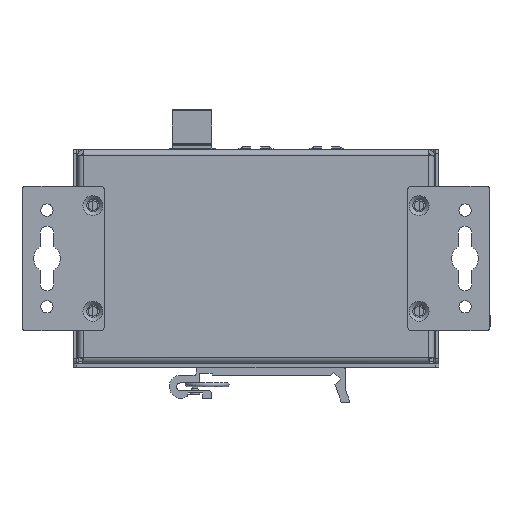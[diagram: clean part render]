
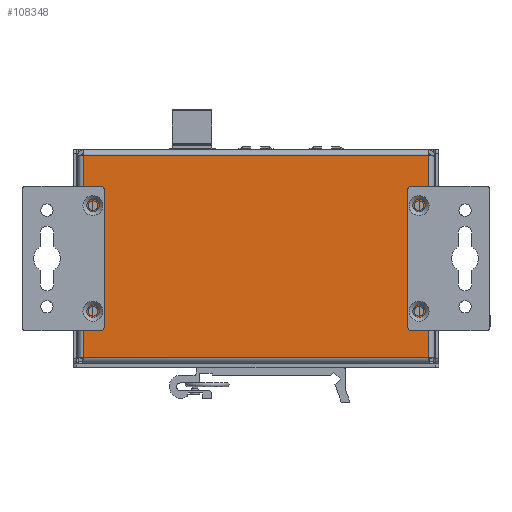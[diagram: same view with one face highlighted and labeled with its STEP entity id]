
A CAD part, front view. The second image highlights one B-rep face of the part: STEP entity #108348.
In plain terms, the highlighted planar face has unit normal (0, -1, 0).
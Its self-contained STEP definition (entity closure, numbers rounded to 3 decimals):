
#1522=FACE_BOUND('',#16320,.T.);
#1523=FACE_BOUND('',#16321,.T.);
#1524=FACE_BOUND('',#16322,.T.);
#1525=FACE_BOUND('',#16323,.T.);
#4067=PLANE('',#115951);
#10425=FACE_OUTER_BOUND('',#16319,.T.);
#16319=EDGE_LOOP('',(#90139,#90140,#90141,#90142));
#16320=EDGE_LOOP('',(#90143));
#16321=EDGE_LOOP('',(#90144));
#16322=EDGE_LOOP('',(#90145));
#16323=EDGE_LOOP('',(#90146));
#26345=LINE('',#170022,#38971);
#26377=LINE('',#170531,#39003);
#26408=LINE('',#171039,#39034);
#26494=LINE('',#171419,#39120);
#38971=VECTOR('',#136351,1000.);
#39003=VECTOR('',#136407,1000.);
#39034=VECTOR('',#136462,1000.);
#39120=VECTOR('',#136680,1000.);
#45803=CIRCLE('',#115952,1.25);
#45804=CIRCLE('',#115953,1.25);
#45805=CIRCLE('',#115954,1.25);
#45806=CIRCLE('',#115955,1.25);
#52908=VERTEX_POINT('',#170020);
#52909=VERTEX_POINT('',#170021);
#52930=VERTEX_POINT('',#170530);
#52951=VERTEX_POINT('',#171038);
#53028=VERTEX_POINT('',#171440);
#53029=VERTEX_POINT('',#171442);
#53030=VERTEX_POINT('',#171444);
#53031=VERTEX_POINT('',#171446);
#66196=EDGE_CURVE('',#52908,#52909,#26345,.T.);
#66237=EDGE_CURVE('',#52909,#52930,#26377,.T.);
#66277=EDGE_CURVE('',#52951,#52908,#26408,.T.);
#66392=EDGE_CURVE('',#52930,#52951,#26494,.T.);
#66403=EDGE_CURVE('',#53028,#53028,#45803,.T.);
#66404=EDGE_CURVE('',#53029,#53029,#45804,.T.);
#66405=EDGE_CURVE('',#53030,#53030,#45805,.T.);
#66406=EDGE_CURVE('',#53031,#53031,#45806,.T.);
#90139=ORIENTED_EDGE('',*,*,#66196,.T.);
#90140=ORIENTED_EDGE('',*,*,#66237,.T.);
#90141=ORIENTED_EDGE('',*,*,#66392,.T.);
#90142=ORIENTED_EDGE('',*,*,#66277,.T.);
#90143=ORIENTED_EDGE('',*,*,#66403,.F.);
#90144=ORIENTED_EDGE('',*,*,#66404,.F.);
#90145=ORIENTED_EDGE('',*,*,#66405,.F.);
#90146=ORIENTED_EDGE('',*,*,#66406,.F.);
#108348=ADVANCED_FACE('',(#10425,#1522,#1523,#1524,#1525),#4067,.F.);
#115951=AXIS2_PLACEMENT_3D('',#171439,#136702,#136703);
#115952=AXIS2_PLACEMENT_3D('',#171441,#136704,#136705);
#115953=AXIS2_PLACEMENT_3D('',#171443,#136706,#136707);
#115954=AXIS2_PLACEMENT_3D('',#171445,#136708,#136709);
#115955=AXIS2_PLACEMENT_3D('',#171447,#136710,#136711);
#136351=DIRECTION('',(1.,0.,0.));
#136407=DIRECTION('',(0.,0.,1.));
#136462=DIRECTION('',(0.,0.,-1.));
#136680=DIRECTION('',(-1.,0.,0.));
#136702=DIRECTION('center_axis',(0.,1.,0.));
#136703=DIRECTION('ref_axis',(-1.,0.,0.));
#136704=DIRECTION('center_axis',(0.,-1.,0.));
#136705=DIRECTION('ref_axis',(1.,0.,0.));
#136706=DIRECTION('center_axis',(0.,-1.,0.));
#136707=DIRECTION('ref_axis',(1.,0.,0.));
#136708=DIRECTION('center_axis',(0.,-1.,0.));
#136709=DIRECTION('ref_axis',(1.,0.,0.));
#136710=DIRECTION('center_axis',(0.,-1.,0.));
#136711=DIRECTION('ref_axis',(1.,0.,0.));
#170020=CARTESIAN_POINT('',(-6.104,-11.977,22.954));
#170021=CARTESIAN_POINT('',(83.896,-11.977,22.954));
#170022=CARTESIAN_POINT('',(-6.392,-11.977,22.954));
#170530=CARTESIAN_POINT('',(83.896,-11.977,75.554));
#170531=CARTESIAN_POINT('',(83.896,-11.977,22.667));
#171038=CARTESIAN_POINT('',(-6.104,-11.977,75.554));
#171039=CARTESIAN_POINT('',(-6.104,-11.977,75.554));
#171419=CARTESIAN_POINT('',(38.896,-11.977,75.554));
#171439=CARTESIAN_POINT('Origin',(38.896,-11.977,75.704));
#171440=CARTESIAN_POINT('',(80.146,-11.977,62.486));
#171441=CARTESIAN_POINT('Origin',(81.396,-11.977,62.486));
#171442=CARTESIAN_POINT('',(80.146,-11.977,34.923));
#171443=CARTESIAN_POINT('Origin',(81.396,-11.977,34.923));
#171444=CARTESIAN_POINT('',(-4.854,-11.977,34.923));
#171445=CARTESIAN_POINT('Origin',(-3.604,-11.977,34.923));
#171446=CARTESIAN_POINT('',(-4.854,-11.977,62.486));
#171447=CARTESIAN_POINT('Origin',(-3.604,-11.977,62.486));
